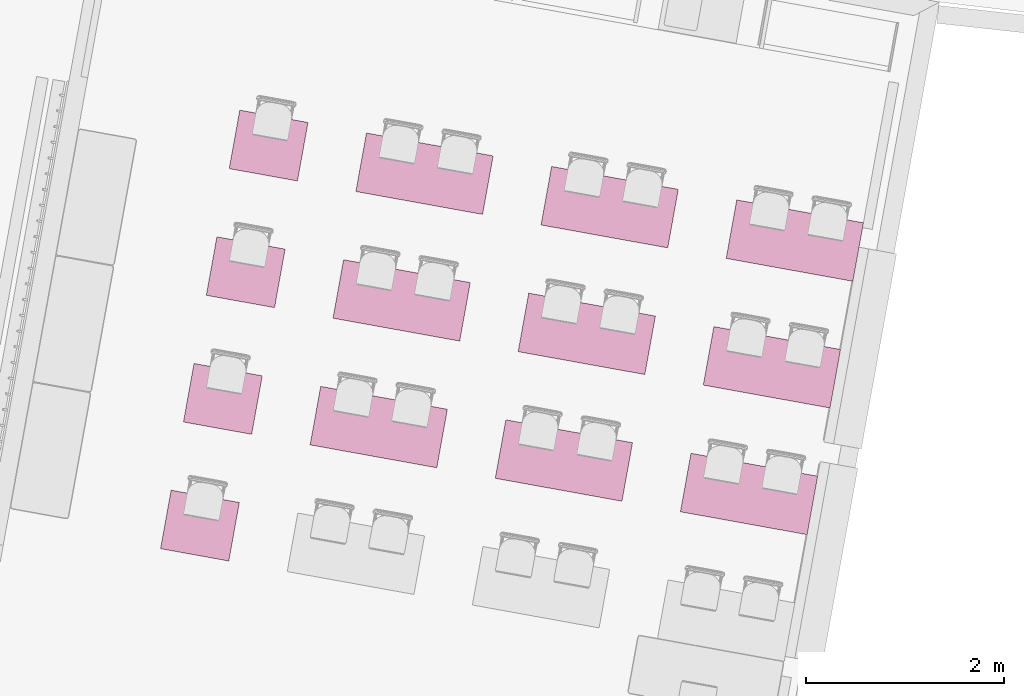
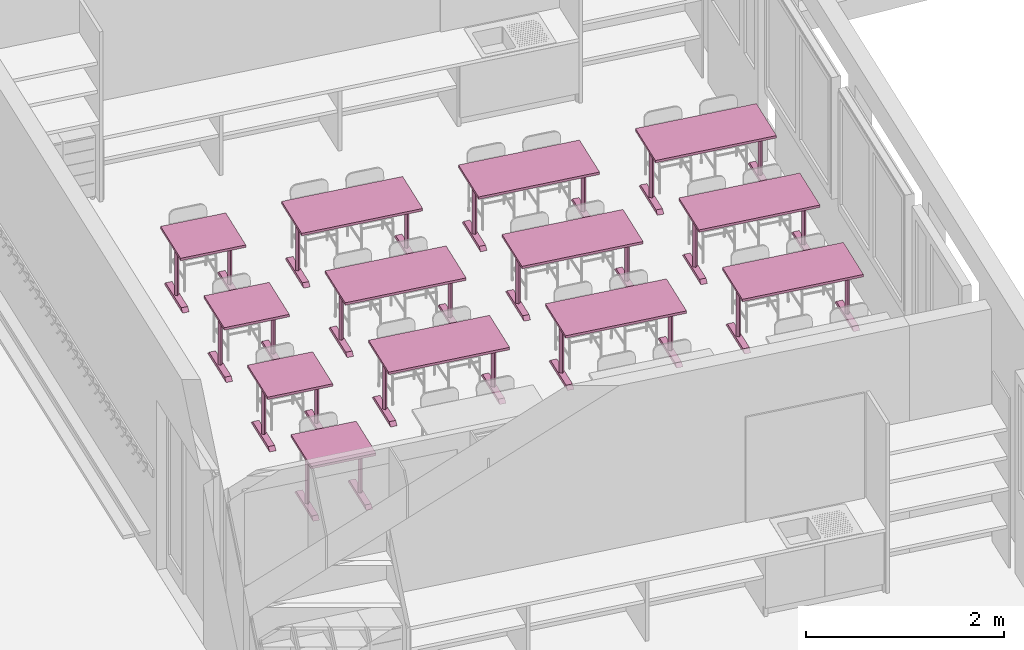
# One storey, part 13 of 79: 13 furnishings.
"""IFC2X3 building model written with IfcOpenShell, lengths in metres."""

from ifc_helpers import new_model, entity, si_unit, converted_unit, derived_unit, money_unit, direction, frame, origin_with_axes, place, context, subcontext, project, spatial, faceted_brep, source, transform, mapped, material, type_object, element, save


model = new_model("IFC2X3")

# Units and contexts
model_context = context("Model", 3, precision=1e-05, world=origin_with_axes(), true_north=direction((0.0, 1.0)))
body_context = subcontext(model_context, "Body", "Model", "MODEL_VIEW")
ifc_project = project(units=[si_unit("LENGTHUNIT", "METRE"), si_unit("AREAUNIT", "SQUARE_METRE"), si_unit("VOLUMEUNIT", "CUBIC_METRE"), converted_unit("PLANEANGLEUNIT", "DEGREE", entity("IfcPlaneAngleMeasure", 0.0174532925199), si_unit("PLANEANGLEUNIT", "RADIAN"), dimensions=[0, 0, 0, 0, 0, 0, 0]), money_unit("CHF"), converted_unit("TIMEUNIT", "Year", entity("IfcTimeMeasure", 31556926.0), si_unit("TIMEUNIT", "SECOND"), dimensions=[0, 0, 1, 0, 0, 0, 0]), si_unit("MASSUNIT", "GRAM", prefix="KILO"), si_unit("THERMODYNAMICTEMPERATUREUNIT", "DEGREE_CELSIUS"), si_unit("LUMINOUSINTENSITYUNIT", "LUMEN"), si_unit("ENERGYUNIT", "JOULE", prefix="MEGA"), derived_unit("THERMALCONDUCTANCEUNIT", [(si_unit("POWERUNIT", "WATT"), 1), (si_unit("LENGTHUNIT", "METRE"), -1), (si_unit("THERMODYNAMICTEMPERATUREUNIT", "KELVIN"), -1)]), derived_unit("SPECIFICHEATCAPACITYUNIT", [(si_unit("ENERGYUNIT", "JOULE"), 1), (si_unit("MASSUNIT", "GRAM", prefix="KILO"), -1), (si_unit("THERMODYNAMICTEMPERATUREUNIT", "KELVIN"), -1)]), derived_unit("MASSDENSITYUNIT", [(si_unit("MASSUNIT", "GRAM", prefix="KILO"), 1), (si_unit("VOLUMEUNIT", "CUBIC_METRE"), -1)])], contexts=[model_context])

# Site, building, storey
site_placement = place(None, frame((0.0, 0.0, 0.0), z_axis=(0.0, 0.0, 1.0), x_axis=(-0.177771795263, -0.984071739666, 0.0)))
site = spatial("IfcSite", under=ifc_project, at=site_placement, Name="Site", CompositionType="ELEMENT")
building_placement = place(site_placement, origin_with_axes())
building = spatial("IfcBuilding", under=site, at=building_placement, Name="Bâtiment", CompositionType="ELEMENT")
storey_placement = place(building_placement, origin_with_axes())
storey = spatial("IfcBuildingStorey", under=building, at=storey_placement, Name="RDC", CompositionType="ELEMENT", Elevation=0.0)

# Furnishings
ifc_material = material(Name="Matériau de construction IFC")
furnishing_element_type = type_object("IfcFurnishingElementType", Name="Table de bureau 21")
shared_shape_1 = source(origin_with_axes(), body_context, "Body", "Brep", [
    faceted_brep([(0.0, 0.0, 0.7), (0.0, 0.0, 0.67), (1.3, 0.0, 0.67), (1.3, 0.0, 0.7), (0.0, 0.6, 0.7), (0.0, 0.6, 0.67), (1.3, 0.6, 0.67), (1.3, 0.6, 0.7)], [[[0, 1, 2, 3]], [[4, 5, 1, 0]], [[1, 5, 6, 2]], [[3, 2, 6, 7]], [[0, 3, 7, 4]], [[7, 6, 5, 4]]]),
    faceted_brep([(0.03, 0.025, 0.0), (0.03, 0.575, 0.0), (0.1, 0.575, 0.0), (0.1, 0.025, 0.0), (0.03, 0.065, 0.04), (0.03, 0.535, 0.04), (0.1, 0.535, 0.04), (0.1, 0.065, 0.04)], [[[0, 1, 2, 3]], [[1, 0, 4, 5]], [[1, 5, 6, 2]], [[3, 2, 6, 7]], [[4, 0, 3, 7]], [[5, 4, 7, 6]]]),
    faceted_brep([(0.09, 0.3, 0.04), (0.065, 0.275, 0.04), (0.04, 0.3, 0.04), (0.065, 0.325, 0.04), (0.09, 0.3, 0.62), (0.065, 0.275, 0.62), (0.04, 0.3, 0.62), (0.065, 0.325, 0.62)], [[[0, 1, 2, 3]], [[1, 0, 4, 5]], [[2, 1, 5, 6]], [[3, 2, 6, 7]], [[0, 3, 7, 4]], [[4, 7, 6, 5]]]),
    faceted_brep([(0.085, 0.3, 0.62), (0.065, 0.28, 0.62), (0.045, 0.3, 0.62), (0.065, 0.32, 0.62), (0.085, 0.3, 0.67), (0.065, 0.28, 0.67), (0.045, 0.3, 0.67), (0.065, 0.32, 0.67)], [[[0, 1, 2, 3]], [[1, 0, 4, 5]], [[2, 1, 5, 6]], [[3, 2, 6, 7]], [[0, 3, 7, 4]], [[4, 7, 6, 5]]]),
    faceted_brep([(1.2, 0.025, 0.0), (1.2, 0.575, 0.0), (1.27, 0.575, 0.0), (1.27, 0.025, 0.0), (1.2, 0.065, 0.04), (1.2, 0.535, 0.04), (1.27, 0.535, 0.04), (1.27, 0.065, 0.04)], [[[0, 1, 2, 3]], [[1, 0, 4, 5]], [[1, 5, 6, 2]], [[3, 2, 6, 7]], [[0, 3, 7, 4]], [[5, 4, 7, 6]]]),
    faceted_brep([(1.26, 0.3, 0.04), (1.235, 0.275, 0.04), (1.21, 0.3, 0.04), (1.235, 0.325, 0.04), (1.26, 0.3, 0.62), (1.235, 0.275, 0.62), (1.21, 0.3, 0.62), (1.235, 0.325, 0.62)], [[[0, 1, 2, 3]], [[1, 0, 4, 5]], [[2, 1, 5, 6]], [[3, 2, 6, 7]], [[0, 3, 7, 4]], [[4, 7, 6, 5]]]),
    faceted_brep([(1.255, 0.3, 0.62), (1.235, 0.28, 0.62), (1.215, 0.3, 0.62), (1.235, 0.32, 0.62), (1.255, 0.3, 0.67), (1.235, 0.28, 0.67), (1.215, 0.3, 0.67), (1.235, 0.32, 0.67)], [[[0, 1, 2, 3]], [[1, 0, 4, 5]], [[2, 1, 5, 6]], [[3, 2, 6, 7]], [[0, 3, 7, 4]], [[4, 7, 6, 5]]]),
])
for number, where, z_axis, x_axis, name in (
    (1, (112.85484124, -153.577151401, 0.0), (0.0, 0.0, 1.0), (0.0, 1.0, 0.0), "bureau-2pl"),
    (2, (114.15484124, -149.777151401, 0.0), (0.0, 0.0, 1.0), (0.0, 1.0, 0.0), "bureau-2pl"),
    (3, (115.45484124, -149.777151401, 0.0), (0.0, 0.0, 1.0), (0.0, 1.0, 0.0), "bureau-2pl"),
    (4, (114.15484124, -151.677151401, 0.0), (0.0, 0.0, 1.0), (0.0, 1.0, 0.0), "bureau-2pl"),
    (5, (115.45484124, -151.677151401, 0.0), (0.0, 0.0, 1.0), (0.0, 1.0, 0.0), "bureau-2pl"),
    (6, (114.15484124, -153.577151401, 0.0), (0.0, 0.0, 1.0), (0.0, 1.0, 0.0), "bureau-2pl"),
    (7, (112.85484124, -151.677151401, 0.0), (0.0, 0.0, 1.0), (0.0, 1.0, 0.0), "bureau-2pl"),
    (8, (112.85484124, -149.777151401, 0.0), (0.0, 0.0, 1.0), (0.0, 1.0, 0.0), "bureau-2pl"),
    (9, (115.45484124, -153.577151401, 0.0), (0.0, 0.0, 1.0), (0.0, 1.0, 0.0), "bureau-2pl"),
):
    element("IfcFurnishingElement", number, at=place(storey_placement, frame(where, z_axis=z_axis, x_axis=x_axis)), inside=storey, type_object=furnishing_element_type, material=ifc_material, Name=name, ObjectType="SYSTEM_FURNITURE", context=body_context, shape_type="MappedRepresentation", body=[
        mapped(shared_shape_1, transform((0.0, 0.0, 0.0))),
    ])
shared_shape_2 = source(origin_with_axes(), body_context, "Body", "Brep", [
    faceted_brep([(0.0, 0.0, 0.7), (0.0, 0.0, 0.67), (0.7, 0.0, 0.67), (0.7, 0.0, 0.7), (0.0, 0.6, 0.7), (0.0, 0.6, 0.67), (0.7, 0.6, 0.67), (0.7, 0.6, 0.7)], [[[0, 1, 2, 3]], [[4, 5, 1, 0]], [[1, 5, 6, 2]], [[3, 2, 6, 7]], [[0, 3, 7, 4]], [[7, 6, 5, 4]]]),
    faceted_brep([(0.03, 0.025, 0.0), (0.03, 0.575, 0.0), (0.1, 0.575, 0.0), (0.1, 0.025, 0.0), (0.03, 0.065, 0.04), (0.03, 0.535, 0.04), (0.1, 0.535, 0.04), (0.1, 0.065, 0.04)], [[[0, 1, 2, 3]], [[1, 0, 4, 5]], [[1, 5, 6, 2]], [[3, 2, 6, 7]], [[4, 0, 3, 7]], [[5, 4, 7, 6]]]),
    faceted_brep([(0.09, 0.3, 0.04), (0.065, 0.275, 0.04), (0.04, 0.3, 0.04), (0.065, 0.325, 0.04), (0.09, 0.3, 0.62), (0.065, 0.275, 0.62), (0.04, 0.3, 0.62), (0.065, 0.325, 0.62)], [[[0, 1, 2, 3]], [[1, 0, 4, 5]], [[2, 1, 5, 6]], [[3, 2, 6, 7]], [[0, 3, 7, 4]], [[4, 7, 6, 5]]]),
    faceted_brep([(0.085, 0.3, 0.62), (0.065, 0.28, 0.62), (0.045, 0.3, 0.62), (0.065, 0.32, 0.62), (0.085, 0.3, 0.67), (0.065, 0.28, 0.67), (0.045, 0.3, 0.67), (0.065, 0.32, 0.67)], [[[0, 1, 2, 3]], [[1, 0, 4, 5]], [[2, 1, 5, 6]], [[3, 2, 6, 7]], [[0, 3, 7, 4]], [[4, 7, 6, 5]]]),
    faceted_brep([(0.6, 0.025, 0.0), (0.6, 0.575, 0.0), (0.67, 0.575, 0.0), (0.67, 0.025, 0.0), (0.6, 0.065, 0.04), (0.6, 0.535, 0.04), (0.67, 0.535, 0.04), (0.67, 0.065, 0.04)], [[[0, 1, 2, 3]], [[1, 0, 4, 5]], [[1, 5, 6, 2]], [[3, 2, 6, 7]], [[4, 0, 3, 7]], [[5, 4, 7, 6]]]),
    faceted_brep([(0.66, 0.3, 0.04), (0.635, 0.275, 0.04), (0.61, 0.3, 0.04), (0.635, 0.325, 0.04), (0.66, 0.3, 0.62), (0.635, 0.275, 0.62), (0.61, 0.3, 0.62), (0.635, 0.325, 0.62)], [[[0, 1, 2, 3]], [[1, 0, 4, 5]], [[2, 1, 5, 6]], [[3, 2, 6, 7]], [[0, 3, 7, 4]], [[4, 7, 6, 5]]]),
    faceted_brep([(0.655, 0.3, 0.62), (0.635, 0.28, 0.62), (0.615, 0.3, 0.62), (0.635, 0.32, 0.62), (0.655, 0.3, 0.67), (0.635, 0.28, 0.67), (0.615, 0.3, 0.67), (0.635, 0.32, 0.67)], [[[0, 1, 2, 3]], [[1, 0, 4, 5]], [[2, 1, 5, 6]], [[3, 2, 6, 7]], [[0, 3, 7, 4]], [[4, 7, 6, 5]]]),
])
for number, where, z_axis, x_axis, name in (
    (10, (115.45484124, -154.877151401, 0.0), (0.0, 0.0, 1.0), (0.0, 1.0, 0.0), "bureau-2pl"),
    (11, (114.15484124, -154.877151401, 0.0), (0.0, 0.0, 1.0), (0.0, 1.0, 0.0), "bureau-2pl"),
    (12, (112.85484124, -154.877151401, 0.0), (0.0, 0.0, 1.0), (0.0, 1.0, 0.0), "bureau-2pl"),
    (13, (116.75484124, -154.877151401, 0.0), (0.0, 0.0, 1.0), (0.0, 1.0, 0.0), "bureau-2pl"),
):
    element("IfcFurnishingElement", number, at=place(storey_placement, frame(where, z_axis=z_axis, x_axis=x_axis)), inside=storey, type_object=furnishing_element_type, material=ifc_material, Name=name, ObjectType="SYSTEM_FURNITURE", context=body_context, shape_type="MappedRepresentation", body=[
        mapped(shared_shape_2, transform((0.0, 0.0, 0.0))),
    ])

save(model, "model.ifc")
